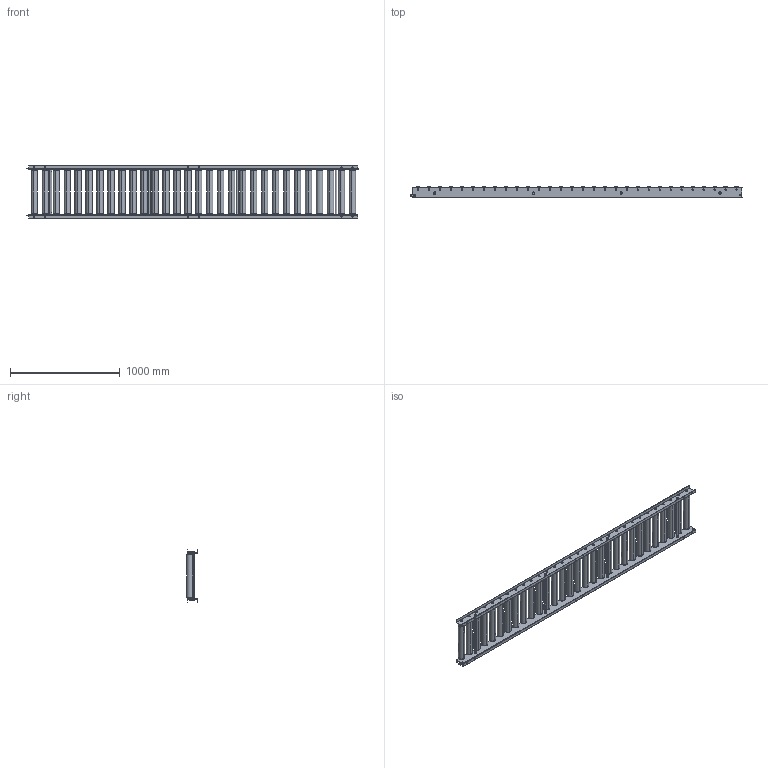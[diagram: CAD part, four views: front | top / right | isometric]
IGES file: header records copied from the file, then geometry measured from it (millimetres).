
Start section: SolidWorks IGES file using analytic representation for surfaces
Global section: file name: C:\Users\0656\Desktop\変換ツール\iges変換\RZ-5714.igs; native system: SolidWorks 2023; preprocessor: SolidWorks 2023; author: 0656; date: 240220.201604; units: millimetre
Bounding box: 3025 x 100.1 x 475 mm (x, y, z)
Surface area: 5576793.7 mm2 (no closed solid volume)
Topology: 0 solids, 0 shells, 1280 faces, 26148 edges, 26148 vertices
Faces by surface type: revolution 670, bspline 610
